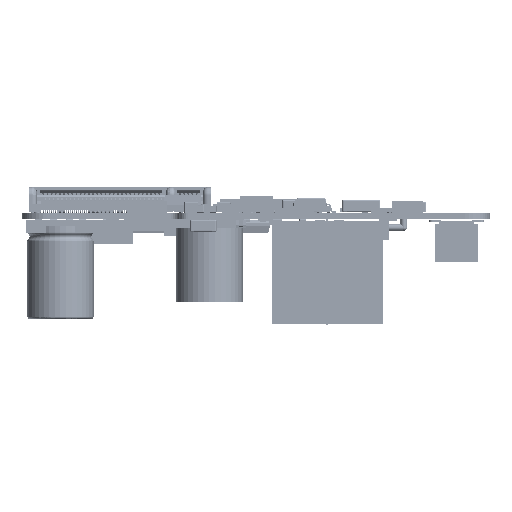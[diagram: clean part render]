
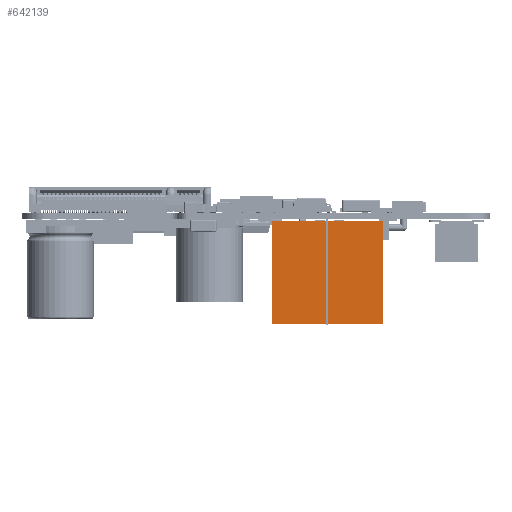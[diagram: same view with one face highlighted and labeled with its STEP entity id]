
A CAD part, left-side view. The second image highlights one B-rep face of the part: STEP entity #642139.
In plain terms, the highlighted planar face has unit normal (-1, 0, 0).
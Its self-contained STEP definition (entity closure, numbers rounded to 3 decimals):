
#642139 = ADVANCED_FACE('',(#642140),#642154,.F.);
#642140 = FACE_BOUND('',#642141,.F.);
#642141 = EDGE_LOOP('',(#642142,#642177,#642205,#642233));
#642142 = ORIENTED_EDGE('',*,*,#642143,.T.);
#642143 = EDGE_CURVE('',#642144,#642146,#642148,.T.);
#642144 = VERTEX_POINT('',#642145);
#642145 = CARTESIAN_POINT('',(-6.65,6.747,0.));
#642146 = VERTEX_POINT('',#642147);
#642147 = CARTESIAN_POINT('',(-6.65,6.747,12.55));
#642148 = SURFACE_CURVE('',#642149,(#642153,#642165),.PCURVE_S1.);
#642149 = LINE('',#642150,#642151);
#642150 = CARTESIAN_POINT('',(-6.65,6.747,0.));
#642151 = VECTOR('',#642152,1.);
#642152 = DIRECTION('',(0.,0.,1.));
#642153 = PCURVE('',#642154,#642159);
#642154 = PLANE('',#642155);
#642155 = AXIS2_PLACEMENT_3D('',#642156,#642157,#642158);
#642156 = CARTESIAN_POINT('',(-6.65,6.747,0.));
#642157 = DIRECTION('',(1.,0.,0.));
#642158 = DIRECTION('',(0.,-1.,0.));
#642159 = DEFINITIONAL_REPRESENTATION('',(#642160),#642164);
#642160 = LINE('',#642161,#642162);
#642161 = CARTESIAN_POINT('',(0.,0.));
#642162 = VECTOR('',#642163,1.);
#642163 = DIRECTION('',(0.,-1.));
#642164 = ( GEOMETRIC_REPRESENTATION_CONTEXT(2) 
PARAMETRIC_REPRESENTATION_CONTEXT() REPRESENTATION_CONTEXT('2D SPACE',''
  ) );
#642165 = PCURVE('',#642166,#642171);
#642166 = PLANE('',#642167);
#642167 = AXIS2_PLACEMENT_3D('',#642168,#642169,#642170);
#642168 = CARTESIAN_POINT('',(6.65,6.747,0.));
#642169 = DIRECTION('',(0.,-1.,0.));
#642170 = DIRECTION('',(-1.,0.,0.));
#642171 = DEFINITIONAL_REPRESENTATION('',(#642172),#642176);
#642172 = LINE('',#642173,#642174);
#642173 = CARTESIAN_POINT('',(13.3,0.));
#642174 = VECTOR('',#642175,1.);
#642175 = DIRECTION('',(0.,-1.));
#642176 = ( GEOMETRIC_REPRESENTATION_CONTEXT(2) 
PARAMETRIC_REPRESENTATION_CONTEXT() REPRESENTATION_CONTEXT('2D SPACE',''
  ) );
#642177 = ORIENTED_EDGE('',*,*,#642178,.T.);
#642178 = EDGE_CURVE('',#642146,#642179,#642181,.T.);
#642179 = VERTEX_POINT('',#642180);
#642180 = CARTESIAN_POINT('',(-6.65,-6.747,12.55));
#642181 = SURFACE_CURVE('',#642182,(#642186,#642193),.PCURVE_S1.);
#642182 = LINE('',#642183,#642184);
#642183 = CARTESIAN_POINT('',(-6.65,6.747,12.55));
#642184 = VECTOR('',#642185,1.);
#642185 = DIRECTION('',(0.,-1.,0.));
#642186 = PCURVE('',#642154,#642187);
#642187 = DEFINITIONAL_REPRESENTATION('',(#642188),#642192);
#642188 = LINE('',#642189,#642190);
#642189 = CARTESIAN_POINT('',(0.,-12.55));
#642190 = VECTOR('',#642191,1.);
#642191 = DIRECTION('',(1.,0.));
#642192 = ( GEOMETRIC_REPRESENTATION_CONTEXT(2) 
PARAMETRIC_REPRESENTATION_CONTEXT() REPRESENTATION_CONTEXT('2D SPACE',''
  ) );
#642193 = PCURVE('',#642194,#642199);
#642194 = PLANE('',#642195);
#642195 = AXIS2_PLACEMENT_3D('',#642196,#642197,#642198);
#642196 = CARTESIAN_POINT('',(-6.65,6.747,12.55));
#642197 = DIRECTION('',(0.,0.,-1.));
#642198 = DIRECTION('',(-1.,0.,0.));
#642199 = DEFINITIONAL_REPRESENTATION('',(#642200),#642204);
#642200 = LINE('',#642201,#642202);
#642201 = CARTESIAN_POINT('',(0.,0.));
#642202 = VECTOR('',#642203,1.);
#642203 = DIRECTION('',(0.,-1.));
#642204 = ( GEOMETRIC_REPRESENTATION_CONTEXT(2) 
PARAMETRIC_REPRESENTATION_CONTEXT() REPRESENTATION_CONTEXT('2D SPACE',''
  ) );
#642205 = ORIENTED_EDGE('',*,*,#642206,.F.);
#642206 = EDGE_CURVE('',#642207,#642179,#642209,.T.);
#642207 = VERTEX_POINT('',#642208);
#642208 = CARTESIAN_POINT('',(-6.65,-6.747,0.));
#642209 = SURFACE_CURVE('',#642210,(#642214,#642221),.PCURVE_S1.);
#642210 = LINE('',#642211,#642212);
#642211 = CARTESIAN_POINT('',(-6.65,-6.747,0.));
#642212 = VECTOR('',#642213,1.);
#642213 = DIRECTION('',(0.,0.,1.));
#642214 = PCURVE('',#642154,#642215);
#642215 = DEFINITIONAL_REPRESENTATION('',(#642216),#642220);
#642216 = LINE('',#642217,#642218);
#642217 = CARTESIAN_POINT('',(13.495,0.));
#642218 = VECTOR('',#642219,1.);
#642219 = DIRECTION('',(0.,-1.));
#642220 = ( GEOMETRIC_REPRESENTATION_CONTEXT(2) 
PARAMETRIC_REPRESENTATION_CONTEXT() REPRESENTATION_CONTEXT('2D SPACE',''
  ) );
#642221 = PCURVE('',#642222,#642227);
#642222 = PLANE('',#642223);
#642223 = AXIS2_PLACEMENT_3D('',#642224,#642225,#642226);
#642224 = CARTESIAN_POINT('',(-6.65,-6.747,0.));
#642225 = DIRECTION('',(0.,1.,0.));
#642226 = DIRECTION('',(1.,0.,0.));
#642227 = DEFINITIONAL_REPRESENTATION('',(#642228),#642232);
#642228 = LINE('',#642229,#642230);
#642229 = CARTESIAN_POINT('',(0.,0.));
#642230 = VECTOR('',#642231,1.);
#642231 = DIRECTION('',(0.,-1.));
#642232 = ( GEOMETRIC_REPRESENTATION_CONTEXT(2) 
PARAMETRIC_REPRESENTATION_CONTEXT() REPRESENTATION_CONTEXT('2D SPACE',''
  ) );
#642233 = ORIENTED_EDGE('',*,*,#642234,.F.);
#642234 = EDGE_CURVE('',#642144,#642207,#642235,.T.);
#642235 = SURFACE_CURVE('',#642236,(#642240,#642247),.PCURVE_S1.);
#642236 = LINE('',#642237,#642238);
#642237 = CARTESIAN_POINT('',(-6.65,6.747,0.));
#642238 = VECTOR('',#642239,1.);
#642239 = DIRECTION('',(0.,-1.,0.));
#642240 = PCURVE('',#642154,#642241);
#642241 = DEFINITIONAL_REPRESENTATION('',(#642242),#642246);
#642242 = LINE('',#642243,#642244);
#642243 = CARTESIAN_POINT('',(0.,0.));
#642244 = VECTOR('',#642245,1.);
#642245 = DIRECTION('',(1.,0.));
#642246 = ( GEOMETRIC_REPRESENTATION_CONTEXT(2) 
PARAMETRIC_REPRESENTATION_CONTEXT() REPRESENTATION_CONTEXT('2D SPACE',''
  ) );
#642247 = PCURVE('',#642248,#642253);
#642248 = PLANE('',#642249);
#642249 = AXIS2_PLACEMENT_3D('',#642250,#642251,#642252);
#642250 = CARTESIAN_POINT('',(-6.65,6.747,0.));
#642251 = DIRECTION('',(0.,0.,-1.));
#642252 = DIRECTION('',(-1.,0.,0.));
#642253 = DEFINITIONAL_REPRESENTATION('',(#642254),#642258);
#642254 = LINE('',#642255,#642256);
#642255 = CARTESIAN_POINT('',(0.,0.));
#642256 = VECTOR('',#642257,1.);
#642257 = DIRECTION('',(0.,-1.));
#642258 = ( GEOMETRIC_REPRESENTATION_CONTEXT(2) 
PARAMETRIC_REPRESENTATION_CONTEXT() REPRESENTATION_CONTEXT('2D SPACE',''
  ) );
